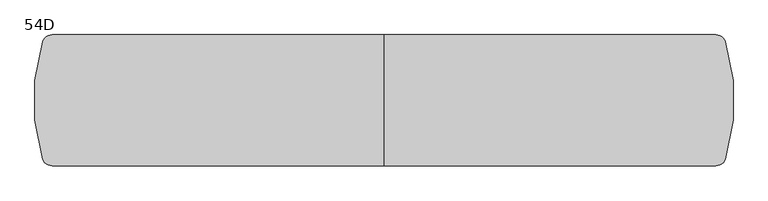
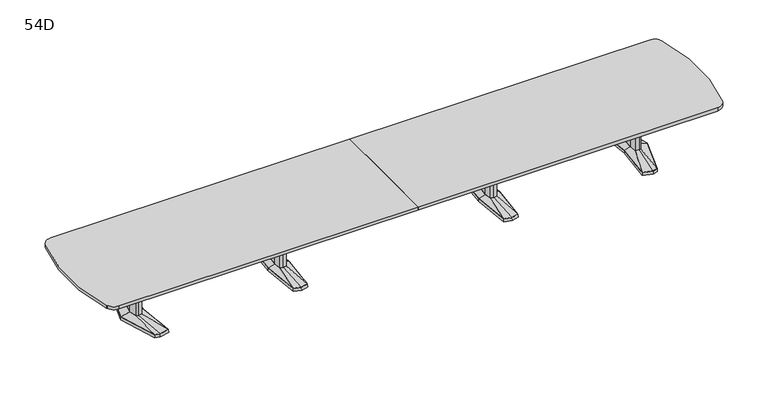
"""IFC4 building model written with IfcOpenShell, lengths in millimetres: furniture geometry, Coalesse_AM_Table_Conference_ETable2_SoftRadiused_24ft_AluminiumBase : 54D."""

import ifcopenshell
import ifcopenshell.guid

model = None  # the IFC model being written
_history = None  # IfcOwnerHistory: only IFC2X3 demands one
_inside = {}  # id of a spatial element -> (the spatial element, [elements in it])
_under = {}  # id of a project, library or spatial element -> (it, [spatial elements below it])
_declared = {}  # id of a project -> (the project, [libraries it declares])
_typed = {}  # id of a type object -> (the type object, [elements of that type])
_made_of = {}  # id of a material, layer set ... -> (it, [elements and type objects made of it])


def new_model(schema):
    """Start an empty IFC model of exactly this schema.

    Asked for "IFC4X3", IfcOpenShell would pick the latest addendum, in which some entities
    have other attributes; the version numbers below select the first issue.
    IFC2X3 requires an IfcOwnerHistory on every rooted entity: one is made here for all.
    """
    global model, _history
    if schema == "IFC4X3":
        model = ifcopenshell.file(schema_version=(4, 3, 0, 0))
    else:
        model = ifcopenshell.file(schema=schema)
    _inside.clear()
    _under.clear()
    _declared.clear()
    _typed.clear()
    _made_of.clear()
    _history = None
    if model.schema == "IFC2X3":
        org = make("IfcOrganization", Name="unknown")
        user = make(
            "IfcPersonAndOrganization",
            ThePerson=make("IfcPerson", FamilyName="unknown"),
            TheOrganization=org,
        )
        app = make(
            "IfcApplication",
            ApplicationDeveloper=org,
            Version="unknown",
            ApplicationFullName="unknown",
            ApplicationIdentifier="unknown",
        )
        _history = make(
            "IfcOwnerHistory",
            OwningUser=user,
            OwningApplication=app,
            ChangeAction="ADDED",
            CreationDate=0,
        )
    return model


def make(cls, **values):
    """One entity of the class cls with the attributes given. An attribute that is None is left unset."""
    return model.create_entity(
        cls, **{name: value for name, value in values.items() if value is not None}
    )


def rooted(cls, **values):
    """An entity with a GlobalId (a new one), such as an element, a storey or a relation."""
    return make(cls, GlobalId=ifcopenshell.guid.new(), OwnerHistory=_history, **values)


def si_unit(unit_type, name, prefix=None):
    """IfcSIUnit, for example si_unit("LENGTHUNIT", "METRE", prefix="MILLI")."""
    return make("IfcSIUnit", UnitType=unit_type, Prefix=prefix, Name=name)


def assignment(units):
    """IfcUnitAssignment: the units of a project."""
    return None if units is None else make("IfcUnitAssignment", Units=units)


def point(xyz):
    """IfcCartesianPoint."""
    return None if xyz is None else make("IfcCartesianPoint", Coordinates=xyz)


def direction(xyz):
    """IfcDirection."""
    return None if xyz is None else make("IfcDirection", DirectionRatios=xyz)


def frame(location, z_axis=None, x_axis=None):
    """IfcAxis2Placement3D, a coordinate frame: its origin and axes. An axis left out is left unset."""
    return make(
        "IfcAxis2Placement3D",
        Location=point(location),
        Axis=direction(z_axis),
        RefDirection=direction(x_axis),
    )


def frame_2d(location, x_axis=None):
    """IfcAxis2Placement2D, a coordinate frame in the plane: its origin and x axis."""
    return make(
        "IfcAxis2Placement2D", Location=point(location), RefDirection=direction(x_axis)
    )


def origin():
    """The frame at (0, 0, 0) with its axes left unset."""
    return frame((0.0, 0.0, 0.0))


def place(relative_to, where):
    """IfcLocalPlacement: puts the frame where relative to a parent placement (None: the world)."""
    return make(
        "IfcLocalPlacement", PlacementRelTo=relative_to, RelativePlacement=where
    )


def context(
    kind, dimensions, precision=None, world=None, true_north=None, identifier=None
):
    """IfcGeometricRepresentationContext, for example the 3D "Model" context."""
    return make(
        "IfcGeometricRepresentationContext",
        ContextIdentifier=identifier,
        ContextType=kind,
        CoordinateSpaceDimension=dimensions,
        Precision=precision,
        WorldCoordinateSystem=world,
        TrueNorth=true_north,
    )


def project(units=None, contexts=None):
    """IfcProject with its units and contexts."""
    return rooted(
        "IfcProject",
        Name="project",
        RepresentationContexts=contexts,
        UnitsInContext=assignment(units),
    )


def spatial(cls, under=None, at=None, **own):
    """A site, building, storey or space (cls), placed at a placement, below another one or the project."""
    s = rooted(cls, ObjectPlacement=at, **own)
    if under is not None:
        _under.setdefault(under.id(), (under, []))[1].append(s)
    return s


def polyline(points):
    """IfcPolyline through the points."""
    return make("IfcPolyline", Points=[point(p) for p in points])


def circle_curve(where, radius):
    """IfcCircle in the frame where."""
    return make("IfcCircle", Position=where, Radius=radius)


def trimmed(basis, trim1, trim2, sense, master):
    """IfcTrimmedCurve: the piece of a basis curve between two trims."""
    return make(
        "IfcTrimmedCurve",
        BasisCurve=basis,
        Trim1=trim1,
        Trim2=trim2,
        SenseAgreement=sense,
        MasterRepresentation=master,
    )


def segment(curve, same_sense, transition):
    """IfcCompositeCurveSegment."""
    return make(
        "IfcCompositeCurveSegment",
        Transition=transition,
        SameSense=same_sense,
        ParentCurve=curve,
    )


def composite_curve(segments, self_intersect=None):
    """IfcCompositeCurve: segments joined end to end."""
    return make("IfcCompositeCurve", Segments=segments, SelfIntersect=self_intersect)


def outline(outer, holes=None, kind="AREA"):
    """IfcArbitraryClosedProfileDef: a profile drawn as a closed curve; with holes, ...WithVoids."""
    if holes is None:
        return make("IfcArbitraryClosedProfileDef", ProfileType=kind, OuterCurve=outer)
    return make(
        "IfcArbitraryProfileDefWithVoids",
        ProfileType=kind,
        OuterCurve=outer,
        InnerCurves=holes,
    )


def extrude(swept, where, along, depth):
    """IfcExtrudedAreaSolid: the profile swept, set in the frame where, extruded along a direction by depth."""
    return make(
        "IfcExtrudedAreaSolid",
        SweptArea=swept,
        Position=where,
        ExtrudedDirection=direction(along),
        Depth=depth,
    )


def faces_of(points, faces, orient=None, outer=None):
    """IfcFace entities. A face is a list of loops; a loop is a list of indices into points, from 0.

    orient and outer hold one flag for each loop. By default every Orientation is true, the
    first loop of a face is its IfcFaceOuterBound and the others are IfcFaceBound.
    """
    made = []
    for i, loops in enumerate(faces):
        bounds = []
        for j, loop in enumerate(loops):
            is_outer = j == 0 if outer is None else outer[i][j]
            bounds.append(
                make(
                    "IfcFaceOuterBound" if is_outer else "IfcFaceBound",
                    Bound=make("IfcPolyLoop", Polygon=[points[k] for k in loop]),
                    Orientation=True if orient is None else orient[i][j],
                )
            )
        made.append(make("IfcFace", Bounds=bounds))
    return made


def faceted_brep(points, faces, orient=None, outer=None, voids=None):
    """IfcFacetedBrep: a solid bounded by flat faces; with voids (closed shells), ...WithVoids."""
    shared = [point(p) for p in points]
    hull = make("IfcClosedShell", CfsFaces=faces_of(shared, faces, orient, outer))
    if voids is None:
        return make("IfcFacetedBrep", Outer=hull)
    return make(
        "IfcFacetedBrepWithVoids",
        Outer=hull,
        Voids=[
            make(cls, CfsFaces=faces_of(shared, fs, o, b)) for cls, fs, o, b in voids
        ],
    )


def shape(context_of_items, identifier, shape_type, items):
    """IfcShapeRepresentation: the items that make up one representation, for example the "Body"."""
    return make(
        "IfcShapeRepresentation",
        ContextOfItems=context_of_items,
        RepresentationIdentifier=identifier,
        RepresentationType=shape_type,
        Items=items,
    )


def source(mapping_origin, context_of_items, identifier, shape_type, items):
    """IfcRepresentationMap: a shape defined once, which mapped items show again and again."""
    return make(
        "IfcRepresentationMap",
        MappingOrigin=mapping_origin,
        MappedRepresentation=shape(context_of_items, identifier, shape_type, items),
    )


def transform(
    local_origin,
    x_axis=None,
    y_axis=None,
    z_axis=None,
    scale=None,
    scale2=None,
    scale3=None,
    uniform=True,
):
    """IfcCartesianTransformationOperator3D, or its non-uniform kind. x_axis, y_axis, z_axis: its Axis1, 2, 3."""
    if uniform:
        return make(
            "IfcCartesianTransformationOperator3D",
            Axis1=direction(x_axis),
            Axis2=direction(y_axis),
            LocalOrigin=point(local_origin),
            Scale=scale,
            Axis3=direction(z_axis),
        )
    return make(
        "IfcCartesianTransformationOperator3DnonUniform",
        Axis1=direction(x_axis),
        Axis2=direction(y_axis),
        LocalOrigin=point(local_origin),
        Scale=scale,
        Axis3=direction(z_axis),
        Scale2=scale2,
        Scale3=scale3,
    )


def mapped(mapping_source, mapping_target):
    """IfcMappedItem: shows the shape of a source again, moved by a transform."""
    return make(
        "IfcMappedItem", MappingSource=mapping_source, MappingTarget=mapping_target
    )


def made_of(thing, what):
    """Note that an element or type object is made of a material, layer set ...; save() writes the relation."""
    if what is not None:
        _made_of.setdefault(what.id(), (what, []))[1].append(thing)
    return thing


def element(
    cls,
    number,
    at=None,
    inside=None,
    cuts=None,
    type_object=None,
    material=None,
    context=None,
    identifier="Body",
    shape_type=None,
    held_by="IfcProductDefinitionShape",
    body=None,
    shapes=None,
    **own,
):
    """One element of the class cls, such as IfcWall. Its Tag is "e" and its number.

    at: its placement. inside: the storey or other place that contains it. cuts: it is an
    opening in that element (IfcRelVoidsElement). A single representation is given by context,
    identifier, shape_type and body (its items); several are given by shapes. held_by: the class
    of the entity that holds the representations. save() writes the other relations.
    """
    e = rooted(cls, Tag="e%d" % number, ObjectPlacement=at, **own)
    if body is not None:
        shapes = [shape(context, identifier, shape_type, body)]
    if shapes is not None:
        e.Representation = make(held_by, Representations=shapes)
    if inside is not None:
        _inside.setdefault(inside.id(), (inside, []))[1].append(e)
    if cuts is not None:
        rooted(
            "IfcRelVoidsElement", RelatingBuildingElement=cuts, RelatedOpeningElement=e
        )
    if type_object is not None:
        _typed.setdefault(type_object.id(), (type_object, []))[1].append(e)
    return made_of(e, material)


def aggregate(whole, parts):
    """IfcRelAggregates: a whole, such as a stair, and the parts it consists of."""
    return rooted("IfcRelAggregates", RelatingObject=whole, RelatedObjects=parts)


def save(model, path):
    """Write the relations noted so far, then the file.

    IfcRelAggregates (storeys below a building ...), IfcRelContainedInSpatialStructure (elements
    in a storey), IfcRelDefinesByType, IfcRelAssociatesMaterial and IfcRelDeclares: one each for
    every whole, place, type object, material and project.
    """
    for whole, parts in _under.values():
        aggregate(whole, parts)
    for where, things in _inside.values():
        rooted(
            "IfcRelContainedInSpatialStructure",
            RelatedElements=things,
            RelatingStructure=where,
        )
    for kind, things in _typed.values():
        rooted("IfcRelDefinesByType", RelatedObjects=things, RelatingType=kind)
    for what, things in _made_of.values():
        rooted("IfcRelAssociatesMaterial", RelatedObjects=things, RelatingMaterial=what)
    for by, libraries in _declared.values():
        rooted("IfcRelDeclares", RelatingContext=by, RelatedDefinitions=libraries)
    model.write(path)


def plane_surface(at):
    """IfcPlane: the flat surface through the origin of the frame at, square to its z axis."""
    return make("IfcPlane", Position=at)


def spline_surface(u_degree, v_degree, points, u_multiplicities, v_multiplicities, u_knots, v_knots, weights=None):
    """IfcBSplineSurfaceWithKnots; with weights, IfcRationalBSplineSurfaceWithKnots. points: one row for each step in u."""
    own = dict(
        UDegree=u_degree,
        VDegree=v_degree,
        ControlPointsList=[[point(p) for p in row] for row in points],
        SurfaceForm="UNSPECIFIED",
        UClosed=False,
        VClosed=False,
        SelfIntersect=False,
        UMultiplicities=u_multiplicities,
        VMultiplicities=v_multiplicities,
        UKnots=u_knots,
        VKnots=v_knots,
        KnotSpec="UNSPECIFIED",
    )
    if weights is None:
        return make("IfcBSplineSurfaceWithKnots", **own)
    return make("IfcRationalBSplineSurfaceWithKnots", WeightsData=weights, **own)


def advanced_brep(points, edges, surfaces, faces):
    """IfcAdvancedBrep: a solid bounded by faces that lie on surfaces and meet in shared edges.

    An edge is (start, end): straight between two places in points (the first is 0);
    or (start, end, curve); or (start, end, curve, False) where it runs against its curve.
    A face is (place in surfaces, loops), or (place, loops, False) where it looks against
    its surface's normal. A loop lists edges by number (the first is 1), with a minus sign
    where the edge is run from its end to its start. The first loop is the outer one.
    """
    corners = [point(p) for p in points]
    vertices = [make("IfcVertexPoint", VertexGeometry=c) for c in corners]
    made = []
    for start, end, *more in edges:
        made.append(
            make(
                "IfcEdgeCurve",
                EdgeStart=vertices[start],
                EdgeEnd=vertices[end],
                EdgeGeometry=more[0] if more else make("IfcPolyline", Points=[corners[start], corners[end]]),
                SameSense=more[1] if len(more) > 1 else True,
            )
        )
    hull = []
    for where, loops, *sense in faces:
        bounds = []
        for j, loop in enumerate(loops):
            ring = [make("IfcOrientedEdge", EdgeElement=made[abs(k) - 1], Orientation=k > 0) for k in loop]
            bounds.append(
                make(
                    "IfcFaceOuterBound" if j == 0 else "IfcFaceBound",
                    Bound=make("IfcEdgeLoop", EdgeList=ring),
                    Orientation=True,
                )
            )
        hull.append(make("IfcAdvancedFace", Bounds=bounds, FaceSurface=surfaces[where], SameSense=sense[0] if sense else True))
    return make("IfcAdvancedBrep", Outer=make("IfcClosedShell", CfsFaces=hull))


def furniture_54d_6ded3c11(model_context):
    return source(origin(), model_context, "Body", "SolidModel", [
        faceted_brep([(2852.8994335, 455.5848221, 38.1), (2743.3218777, 426.2263816, 38.1), (2784.4851217, 0.0, 38.1), (2743.3218777, -426.2263816, 38.1), (2852.8994335, -455.5848221, 38.1), (2909.0257896, -440.5478297, 38.1), (3046.3371769, 0.0, 38.1), (2909.0257896, 440.5478297, 38.1), (2852.8994254, 457.2283104, 3.175), (2910.2811972, 441.8549756, 3.175), (3048.0, 0.0, 3.175), (2910.2811972, -441.8549756, 3.175), (2852.8994254, -457.2283104, 3.175), (2741.6125, -427.4118891, 3.175), (2782.8902356, 0.0, 3.175), (2741.6125, 427.4118891, 3.175), (2856.488865, 428.3273875, 3.175), (2751.4405728, 402.1057253, 3.175), (2759.559268, 377.985069, 3.175), (2860.0782966, 401.0699529, 3.175), (2910.6379225, 387.524361, 3.175), (2909.8318561, 414.0360954, 3.175), (2856.488865, -428.3273875, 3.175), (2909.8318561, -414.0360954, 3.175), (2910.6379225, -387.524361, 3.175), (2860.0782966, -401.0699529, 3.175), (2759.559268, -377.985069, 3.175), (2751.4405728, -402.1057253, 3.175), (2983.0841121, 0.0, 3.175), (2950.8147111, 120.4193755, 3.175), (2902.1674722, 133.471665, 3.175), (2822.2868026, 119.4176561, 3.175), (2811.1555966, 0.0, 3.175), (2822.2868026, -119.4176561, 3.175), (2902.1674722, -133.471665, 3.175), (2950.8147111, -120.4193755, 3.175), (2856.488865, 428.3273875, 0.0), (2909.8318561, 414.0360954, 0.0), (2910.6379225, 387.524361, 0.0), (2860.0782966, 401.0699529, 0.0), (2759.559268, 377.985069, 0.0), (2751.4405728, 402.1057253, 0.0), (2856.488865, -428.3273875, 0.0), (2751.4405728, -402.1057253, 0.0), (2759.559268, -377.985069, 0.0), (2860.0782966, -401.0699529, 0.0), (2910.6379225, -387.524361, 0.0), (2909.8318561, -414.0360954, 0.0), (2983.0841121, 0.0, 0.0), (2950.8147111, -120.4193755, 0.0), (2902.1674722, -133.471665, 0.0), (2822.2868026, -119.4176561, 0.0), (2811.1555966, 0.0, 0.0), (2822.2868026, 119.4176561, 0.0), (2902.1674722, 133.471665, 0.0), (2950.8147111, 120.4193755, 0.0)], [[[0, 1, 2, 3, 4, 5, 6, 7]], [[8, 9, 10, 11, 12, 13, 14, 15], [16, 17, 18, 19, 20, 21], [22, 23, 24, 25, 26, 27], [28, 29, 30, 31, 32, 33, 34, 35]], [[7, 9, 8, 0]], [[6, 10, 9, 7]], [[5, 11, 10, 6]], [[4, 12, 11, 5]], [[3, 13, 12, 4]], [[2, 14, 13, 3]], [[1, 15, 14, 2]], [[0, 8, 15, 1]], [[36, 37, 38, 39, 40, 41]], [[42, 43, 44, 45, 46, 47]], [[48, 49, 50, 51, 52, 53, 54, 55]], [[36, 16, 21, 37]], [[37, 21, 20, 38]], [[38, 20, 19, 39]], [[39, 19, 18, 40]], [[40, 18, 17, 41]], [[41, 17, 16, 36]], [[42, 22, 27, 43]], [[43, 27, 26, 44]], [[44, 26, 25, 45]], [[45, 25, 24, 46]], [[46, 24, 23, 47]], [[47, 23, 22, 42]], [[48, 28, 35, 49]], [[49, 35, 34, 50]], [[50, 34, 33, 51]], [[51, 33, 32, 52]], [[52, 32, 31, 53]], [[53, 31, 30, 54]], [[54, 30, 29, 55]], [[55, 29, 28, 48]]]),
        faceted_brep([(2943.6398336, 0.0, 698.5), (2919.7046046, 89.3188359, 698.5), (2902.8512484, 93.8406728, 698.5), (2900.4514011, 94.4845635, 698.5), (2857.523896, 86.9320037, 698.5), (2849.4207556, 0.0, 698.5), (2857.523896, -86.9320037, 698.5), (2900.4514011, -94.4845635, 698.5), (2902.8512484, -93.8406728, 698.5), (2919.7046046, -89.3188359, 698.5), (2943.6398336, 0.0, 63.5), (2919.7046046, -89.3188359, 63.5), (2902.8512484, -93.8406728, 63.5), (2900.4514011, -94.4845635, 63.5), (2857.523896, -86.9320037, 63.5), (2849.4207556, 0.0, 63.5), (2857.523896, 86.9320037, 63.5), (2900.4514011, 94.4845635, 63.5), (2902.8512484, 93.8406728, 63.5), (2919.7046046, 89.3188359, 63.5)], [[[0, 1, 2, 3, 4, 5, 6, 7, 8, 9]], [[10, 11, 12, 13, 14, 15, 16, 17, 18, 19]], [[9, 11, 10, 0]], [[8, 12, 11, 9]], [[7, 13, 12, 8]], [[6, 14, 13, 7]], [[5, 15, 14, 6]], [[4, 16, 15, 5]], [[3, 17, 16, 4]], [[2, 18, 17, 3]], [[1, 19, 18, 2]], [[0, 10, 19, 1]]]),
        advanced_brep(
        [(2900.4514011, 94.4845635, 63.5), (2857.523896, 86.9320037, 63.5), (2849.4207556, 0.0, 63.5), (2857.523896, -86.9320037, 63.5), (2900.4514011, -94.4845635, 63.5), (2919.7046046, -89.3188359, 63.5), (2943.6398336, 0.0, 63.5), (2919.7046046, 89.3188359, 63.5), (2852.8994335, 455.5848221, 38.1), (2909.0257896, 440.5478297, 38.1), (3046.3371769, 0.0, 38.1), (2909.0257896, -440.5478297, 38.1), (2852.8994335, -455.5848221, 38.1), (2743.3218777, -426.2263816, 38.1), (2784.4851217, 0.0, 38.1), (2743.3218777, 426.2263816, 38.1)],
        [
            (0, 1),
            (1, 2),
            (2, 3),
            (3, 4),
            (4, 5),
            (5, 6),
            (6, 7),
            (7, 0),
            (8, 9),
            (9, 10),
            (10, 11),
            (11, 12),
            (12, 13),
            (13, 14),
            (14, 15),
            (15, 8),
            (8, 0),
            (7, 9),
            (6, 10),
            (5, 11),
            (4, 12),
            (3, 13),
            (2, 14),
            (1, 15),
        ],
        [
            plane_surface(frame((2893.5525491, 0.0, 63.5), z_axis=(0.0, 0.0, 1.0), x_axis=(-0.25884244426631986, -0.9659195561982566, 0.0))),
            plane_surface(frame((2855.1645625, 0.0, 38.1), z_axis=(0.0, 0.0, -1.0), x_axis=(-0.25884244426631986, -0.9659195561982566, 0.0))),
            spline_surface(1, 1, [[(2852.8994335, 455.5848221, 38.1), (2909.0257896, 440.5478297, 38.1)], [(2900.4514011, 94.4845635, 63.5), (2919.7046046, 89.3188359, 63.5)]], [2, 2], [2, 2], [0.0, 1.0], [0.0, 1.0]),
            spline_surface(1, 1, [[(2909.0257896, 440.5478297, 38.1), (3046.3371769, 0.0, 38.1)], [(2919.7046046, 89.3188359, 63.5), (2943.6398336, 0.0, 63.5)]], [2, 2], [2, 2], [0.0, 1.0], [0.0, 1.0]),
            spline_surface(1, 1, [[(3046.3371769, 0.0, 38.1), (2909.0257896, -440.5478297, 38.1)], [(2943.6398336, 0.0, 63.5), (2919.7046046, -89.3188359, 63.5)]], [2, 2], [2, 2], [0.0, 1.0], [0.0, 1.0]),
            spline_surface(1, 1, [[(2909.0257896, -440.5478297, 38.1), (2852.8994335, -455.5848221, 38.1)], [(2919.7046046, -89.3188359, 63.5), (2900.4514011, -94.4845635, 63.5)]], [2, 2], [2, 2], [0.0, 1.0], [0.0, 1.0]),
            spline_surface(1, 1, [[(2852.8994335, -455.5848221, 38.1), (2743.3218777, -426.2263816, 38.1)], [(2900.4514011, -94.4845635, 63.5), (2857.523896, -86.9320037, 63.5)]], [2, 2], [2, 2], [0.0, 1.0], [0.0, 1.0]),
            spline_surface(1, 1, [[(2743.3218777, -426.2263816, 38.1), (2784.4851217, 0.0, 38.1)], [(2857.523896, -86.9320037, 63.5), (2849.4207556, 0.0, 63.5)]], [2, 2], [2, 2], [0.0, 1.0], [0.0, 1.0]),
            spline_surface(1, 1, [[(2784.4851217, 0.0, 38.1), (2743.3218777, 426.2263816, 38.1)], [(2849.4207556, 0.0, 63.5), (2857.523896, 86.9320037, 63.5)]], [2, 2], [2, 2], [0.0, 1.0], [0.0, 1.0]),
            spline_surface(1, 1, [[(2743.3218777, 426.2263816, 38.1), (2852.8994335, 455.5848221, 38.1)], [(2857.523896, 86.9320037, 63.5), (2900.4514011, 94.4845635, 63.5)]], [2, 2], [2, 2], [0.0, 1.0], [0.0, 1.0]),
        ],
        [
            (0, [[1, 2, 3, 4, 5, 6, 7, 8]]),
            (1, [[9, 10, 11, 12, 13, 14, 15, 16]]),
            (2, [[17, -8, 18, -9]]),
            (3, [[-18, -7, 19, -10]]),
            (4, [[-19, -6, 20, -11]]),
            (5, [[-20, -5, 21, -12]]),
            (6, [[-21, -4, 22, -13]]),
            (7, [[-22, -3, 23, -14]]),
            (8, [[-23, -2, 24, -15]]),
            (9, [[-24, -1, -17, -16]]),
        ],
    ),
        faceted_brep([(-2852.8994335, 455.5848221, 38.1), (-2909.0257896, 440.5478297, 38.1), (-3046.3371769, 0.0, 38.1), (-2909.0257896, -440.5478297, 38.1), (-2852.8994335, -455.5848221, 38.1), (-2743.3218777, -426.2263816, 38.1), (-2784.4851217, 0.0, 38.1), (-2743.3218777, 426.2263816, 38.1), (-2852.8994254, 457.2283104, 3.175), (-2741.6125, 427.4118891, 3.175), (-2782.8902356, 0.0, 3.175), (-2741.6125, -427.4118891, 3.175), (-2852.8994254, -457.2283104, 3.175), (-2910.2811972, -441.8549756, 3.175), (-3048.0, 0.0, 3.175), (-2910.2811972, 441.8549756, 3.175), (-2856.488865, 428.3273875, 3.175), (-2909.8318561, 414.0360954, 3.175), (-2910.6379225, 387.524361, 3.175), (-2860.0782966, 401.0699529, 3.175), (-2759.559268, 377.985069, 3.175), (-2751.4405728, 402.1057253, 3.175), (-2856.488865, -428.3273875, 3.175), (-2751.4405728, -402.1057253, 3.175), (-2759.559268, -377.985069, 3.175), (-2860.0782966, -401.0699529, 3.175), (-2910.6379225, -387.524361, 3.175), (-2909.8318561, -414.0360954, 3.175), (-2983.0841121, 0.0, 3.175), (-2950.8147111, -120.4193755, 3.175), (-2902.1674722, -133.471665, 3.175), (-2822.2868026, -119.4176561, 3.175), (-2811.1555966, 0.0, 3.175), (-2822.2868026, 119.4176561, 3.175), (-2902.1674722, 133.471665, 3.175), (-2950.8147111, 120.4193755, 3.175), (-2856.488865, 428.3273875, 0.0), (-2751.4405728, 402.1057253, 0.0), (-2759.559268, 377.985069, 0.0), (-2860.0782966, 401.0699529, 0.0), (-2910.6379225, 387.524361, 0.0), (-2909.8318561, 414.0360954, 0.0), (-2856.488865, -428.3273875, 0.0), (-2909.8318561, -414.0360954, 0.0), (-2910.6379225, -387.524361, 0.0), (-2860.0782966, -401.0699529, 0.0), (-2759.559268, -377.985069, 0.0), (-2751.4405728, -402.1057253, 0.0), (-2983.0841121, 0.0, 0.0), (-2950.8147111, 120.4193755, 0.0), (-2902.1674722, 133.471665, 0.0), (-2822.2868026, 119.4176561, 0.0), (-2811.1555966, 0.0, 0.0), (-2822.2868026, -119.4176561, 0.0), (-2902.1674722, -133.471665, 0.0), (-2950.8147111, -120.4193755, 0.0)], [[[0, 1, 2, 3, 4, 5, 6, 7]], [[8, 9, 10, 11, 12, 13, 14, 15], [16, 17, 18, 19, 20, 21], [22, 23, 24, 25, 26, 27], [28, 29, 30, 31, 32, 33, 34, 35]], [[1, 0, 8, 15]], [[2, 1, 15, 14]], [[3, 2, 14, 13]], [[4, 3, 13, 12]], [[5, 4, 12, 11]], [[6, 5, 11, 10]], [[7, 6, 10, 9]], [[0, 7, 9, 8]], [[36, 37, 38, 39, 40, 41]], [[42, 43, 44, 45, 46, 47]], [[48, 49, 50, 51, 52, 53, 54, 55]], [[36, 41, 17, 16]], [[41, 40, 18, 17]], [[40, 39, 19, 18]], [[39, 38, 20, 19]], [[38, 37, 21, 20]], [[37, 36, 16, 21]], [[42, 47, 23, 22]], [[47, 46, 24, 23]], [[46, 45, 25, 24]], [[45, 44, 26, 25]], [[44, 43, 27, 26]], [[43, 42, 22, 27]], [[48, 55, 29, 28]], [[55, 54, 30, 29]], [[54, 53, 31, 30]], [[53, 52, 32, 31]], [[52, 51, 33, 32]], [[51, 50, 34, 33]], [[50, 49, 35, 34]], [[49, 48, 28, 35]]]),
        faceted_brep([(-2943.6398336, 0.0, 698.5), (-2919.7046046, -89.3188359, 698.5), (-2902.8512484, -93.8406728, 698.5), (-2900.4514011, -94.4845635, 698.5), (-2857.523896, -86.9320037, 698.5), (-2849.4207556, 0.0, 698.5), (-2857.523896, 86.9320037, 698.5), (-2900.4514011, 94.4845635, 698.5), (-2902.8512484, 93.8406728, 698.5), (-2919.7046046, 89.3188359, 698.5), (-2943.6398336, 0.0, 63.5), (-2919.7046046, 89.3188359, 63.5), (-2902.8512484, 93.8406728, 63.5), (-2900.4514011, 94.4845635, 63.5), (-2857.523896, 86.9320037, 63.5), (-2849.4207556, 0.0, 63.5), (-2857.523896, -86.9320037, 63.5), (-2900.4514011, -94.4845635, 63.5), (-2902.8512484, -93.8406728, 63.5), (-2919.7046046, -89.3188359, 63.5)], [[[0, 1, 2, 3, 4, 5, 6, 7, 8, 9]], [[10, 11, 12, 13, 14, 15, 16, 17, 18, 19]], [[1, 0, 10, 19]], [[2, 1, 19, 18]], [[3, 2, 18, 17]], [[4, 3, 17, 16]], [[5, 4, 16, 15]], [[6, 5, 15, 14]], [[7, 6, 14, 13]], [[8, 7, 13, 12]], [[9, 8, 12, 11]], [[0, 9, 11, 10]]]),
        advanced_brep(
        [(-2900.4514011, 94.4845635, 63.5), (-2919.7046046, 89.3188359, 63.5), (-2943.6398336, 0.0, 63.5), (-2919.7046046, -89.3188359, 63.5), (-2900.4514011, -94.4845635, 63.5), (-2857.523896, -86.9320037, 63.5), (-2849.4207556, 0.0, 63.5), (-2857.523896, 86.9320037, 63.5), (-2852.8994335, 455.5848221, 38.1), (-2743.3218777, 426.2263816, 38.1), (-2784.4851217, 0.0, 38.1), (-2743.3218777, -426.2263816, 38.1), (-2852.8994335, -455.5848221, 38.1), (-2909.0257896, -440.5478297, 38.1), (-3046.3371769, 0.0, 38.1), (-2909.0257896, 440.5478297, 38.1)],
        [
            (0, 1),
            (1, 2),
            (2, 3),
            (3, 4),
            (4, 5),
            (5, 6),
            (6, 7),
            (7, 0),
            (8, 9),
            (9, 10),
            (10, 11),
            (11, 12),
            (12, 13),
            (13, 14),
            (14, 15),
            (15, 8),
            (15, 1),
            (0, 8),
            (14, 2),
            (13, 3),
            (12, 4),
            (11, 5),
            (10, 6),
            (9, 7),
        ],
        [
            plane_surface(frame((-2893.5525491, 0.0, 63.5), z_axis=(0.0, 0.0, 1.0), x_axis=(0.25884244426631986, -0.9659195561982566, 0.0))),
            plane_surface(frame((-2855.1645625, 0.0, 38.1), z_axis=(0.0, 0.0, -1.0), x_axis=(0.25884244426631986, -0.9659195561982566, 0.0))),
            spline_surface(1, 1, [[(-2852.8994335, 455.5848221, 38.1), (-2900.4514011, 94.4845635, 63.5)], [(-2909.0257896, 440.5478297, 38.1), (-2919.7046046, 89.3188359, 63.5)]], [2, 2], [2, 2], [0.0, 1.0], [0.0, 1.0]),
            spline_surface(1, 1, [[(-2909.0257896, 440.5478297, 38.1), (-2919.7046046, 89.3188359, 63.5)], [(-3046.3371769, 0.0, 38.1), (-2943.6398336, 0.0, 63.5)]], [2, 2], [2, 2], [0.0, 1.0], [0.0, 1.0]),
            spline_surface(1, 1, [[(-3046.3371769, 0.0, 38.1), (-2943.6398336, 0.0, 63.5)], [(-2909.0257896, -440.5478297, 38.1), (-2919.7046046, -89.3188359, 63.5)]], [2, 2], [2, 2], [0.0, 1.0], [0.0, 1.0]),
            spline_surface(1, 1, [[(-2909.0257896, -440.5478297, 38.1), (-2919.7046046, -89.3188359, 63.5)], [(-2852.8994335, -455.5848221, 38.1), (-2900.4514011, -94.4845635, 63.5)]], [2, 2], [2, 2], [0.0, 1.0], [0.0, 1.0]),
            spline_surface(1, 1, [[(-2852.8994335, -455.5848221, 38.1), (-2900.4514011, -94.4845635, 63.5)], [(-2743.3218777, -426.2263816, 38.1), (-2857.523896, -86.9320037, 63.5)]], [2, 2], [2, 2], [0.0, 1.0], [0.0, 1.0]),
            spline_surface(1, 1, [[(-2743.3218777, -426.2263816, 38.1), (-2857.523896, -86.9320037, 63.5)], [(-2784.4851217, 0.0, 38.1), (-2849.4207556, 0.0, 63.5)]], [2, 2], [2, 2], [0.0, 1.0], [0.0, 1.0]),
            spline_surface(1, 1, [[(-2784.4851217, 0.0, 38.1), (-2849.4207556, 0.0, 63.5)], [(-2743.3218777, 426.2263816, 38.1), (-2857.523896, 86.9320037, 63.5)]], [2, 2], [2, 2], [0.0, 1.0], [0.0, 1.0]),
            spline_surface(1, 1, [[(-2743.3218777, 426.2263816, 38.1), (-2857.523896, 86.9320037, 63.5)], [(-2852.8994335, 455.5848221, 38.1), (-2900.4514011, 94.4845635, 63.5)]], [2, 2], [2, 2], [0.0, 1.0], [0.0, 1.0]),
        ],
        [
            (0, [[1, 2, 3, 4, 5, 6, 7, 8]]),
            (1, [[9, 10, 11, 12, 13, 14, 15, 16]]),
            (2, [[-16, 17, -1, 18]]),
            (3, [[-15, 19, -2, -17]]),
            (4, [[-14, 20, -3, -19]]),
            (5, [[-13, 21, -4, -20]]),
            (6, [[-12, 22, -5, -21]]),
            (7, [[-11, 23, -6, -22]]),
            (8, [[-10, 24, -7, -23]]),
            (9, [[-9, -18, -8, -24]]),
        ],
    ),
        faceted_brep([(1137.9666209, -433.8053819, 38.1), (1219.2, -455.556576, 38.1), (1300.4333791, -433.8053819, 38.1), (1338.2564774, 0.0, 38.1), (1300.4333791, 433.8053819, 38.1), (1219.2, 455.556576, 38.1), (1137.9666209, 433.8053819, 38.1), (1100.1435226, 0.0, 38.1), (1136.4817205, -435.0512063, 3.175), (1098.55, 0.0, 3.175), (1136.4817205, 435.0512063, 3.175), (1219.2, 457.2, 3.175), (1301.9182795, 435.0512063, 3.175), (1339.85, 0.0, 3.175), (1301.9182795, -435.0512063, 3.175), (1219.2, -457.2, 3.175), (1219.2, 429.2617927, 3.175), (1141.2323194, 408.3850278, 3.175), (1144.4980179, 382.9646737, 3.175), (1219.2, 402.9670094, 3.175), (1293.9019821, 382.9646737, 3.175), (1297.1676806, 408.3850278, 3.175), (1219.2, -429.2617927, 3.175), (1297.1676806, -408.3850278, 3.175), (1293.9019821, -382.9646737, 3.175), (1219.2, -402.9670094, 3.175), (1144.4980179, -382.9646737, 3.175), (1141.2323194, -408.3850278, 3.175), (1147.3425738, 114.6326257, 3.175), (1136.6573924, 0.0, 3.175), (1147.3425738, -114.6326257, 3.175), (1219.2, -133.8761372, 3.175), (1291.0574262, -114.6326257, 3.175), (1301.7426076, 0.0, 3.175), (1291.0574262, 114.6326257, 3.175), (1219.2, 133.8761372, 3.175), (1219.2, 429.2617927, 0.0), (1297.1676806, 408.3850278, 0.0), (1293.9019821, 382.9646737, 0.0), (1219.2, 402.9670094, 0.0), (1144.4980179, 382.9646737, 0.0), (1141.2323194, 408.3850278, 0.0), (1219.2, -429.2617927, 0.0), (1141.2323194, -408.3850278, 0.0), (1144.4980179, -382.9646737, 0.0), (1219.2, -402.9670094, 0.0), (1293.9019821, -382.9646737, 0.0), (1297.1676806, -408.3850278, 0.0), (1147.3425738, 114.6326257, 0.0), (1219.2, 133.8761372, 0.0), (1291.0574262, 114.6326257, 0.0), (1301.7426076, 0.0, 0.0), (1291.0574262, -114.6326257, 0.0), (1219.2, -133.8761372, 0.0), (1147.3425738, -114.6326257, 0.0), (1136.6573924, 0.0, 0.0)], [[[0, 1, 2, 3, 4, 5, 6, 7]], [[8, 9, 10, 11, 12, 13, 14, 15], [16, 17, 18, 19, 20, 21], [22, 23, 24, 25, 26, 27], [28, 29, 30, 31, 32, 33, 34, 35]], [[1, 0, 8, 15]], [[2, 1, 15, 14]], [[3, 2, 14, 13]], [[4, 3, 13, 12]], [[5, 4, 12, 11]], [[6, 5, 11, 10]], [[7, 6, 10, 9]], [[0, 7, 9, 8]], [[36, 37, 38, 39, 40, 41]], [[42, 43, 44, 45, 46, 47]], [[48, 49, 50, 51, 52, 53, 54, 55]], [[36, 41, 17, 16]], [[41, 40, 18, 17]], [[40, 39, 19, 18]], [[39, 38, 20, 19]], [[38, 37, 21, 20]], [[37, 36, 16, 21]], [[42, 47, 23, 22]], [[47, 46, 24, 23]], [[46, 45, 25, 24]], [[45, 44, 26, 25]], [[44, 43, 27, 26]], [[43, 42, 22, 27]], [[48, 55, 29, 28]], [[55, 54, 30, 29]], [[54, 53, 31, 30]], [[53, 52, 32, 31]], [[52, 51, 33, 32]], [[51, 50, 34, 33]], [[50, 49, 35, 34]], [[49, 48, 28, 35]]]),
        faceted_brep([(1182.8167166, 84.6900825, 698.5), (1174.9225513, 0.0, 698.5), (1182.8167166, -84.6900825, 698.5), (1219.2, -94.4335728, 698.5), (1255.5832834, -84.6900825, 698.5), (1263.4774487, 0.0, 698.5), (1255.5832834, 84.6900825, 698.5), (1219.2, 94.4335728, 698.5), (1182.8167166, 84.6900825, 63.5), (1219.2, 94.4335728, 63.5), (1255.5832834, 84.6900825, 63.5), (1263.4774487, 0.0, 63.5), (1255.5832834, -84.6900825, 63.5), (1219.2, -94.4335728, 63.5), (1182.8167166, -84.6900825, 63.5), (1174.9225513, 0.0, 63.5)], [[[0, 1, 2, 3, 4, 5, 6, 7]], [[8, 9, 10, 11, 12, 13, 14, 15]], [[1, 0, 8, 15]], [[2, 1, 15, 14]], [[3, 2, 14, 13]], [[4, 3, 13, 12]], [[5, 4, 12, 11]], [[6, 5, 11, 10]], [[7, 6, 10, 9]], [[0, 7, 9, 8]]]),
        advanced_brep(
        [(1182.8167166, 84.6900825, 63.5), (1174.9225513, 0.0, 63.5), (1182.8167166, -84.6900825, 63.5), (1219.2, -94.4335728, 63.5), (1255.5832834, -84.6900825, 63.5), (1263.4774487, 0.0, 63.5), (1255.5832834, 84.6900825, 63.5), (1219.2, 94.4335728, 63.5), (1137.9666209, 433.8053819, 38.1), (1219.2, 455.556576, 38.1), (1300.4333791, 433.8053819, 38.1), (1338.2564774, 0.0, 38.1), (1300.4333791, -433.8053819, 38.1), (1219.2, -455.556576, 38.1), (1137.9666209, -433.8053819, 38.1), (1100.1435226, 0.0, 38.1)],
        [
            (0, 1),
            (1, 2),
            (2, 3),
            (3, 4),
            (4, 5),
            (5, 6),
            (6, 7),
            (7, 0),
            (8, 9),
            (9, 10),
            (10, 11),
            (11, 12),
            (12, 13),
            (13, 14),
            (14, 15),
            (15, 8),
            (15, 1),
            (0, 8),
            (14, 2),
            (13, 3),
            (12, 4),
            (11, 5),
            (10, 6),
            (9, 7),
        ],
        [
            plane_surface(frame((1219.2, 0.0, 63.5), z_axis=(0.0, 0.0, 1.0000000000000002), x_axis=(-0.9659615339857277, -0.25868574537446, 0.0))),
            plane_surface(frame((1219.2, 0.0, 38.1), z_axis=(0.0, 0.0, -1.0000000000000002), x_axis=(-0.9659615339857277, -0.25868574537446, 0.0))),
            spline_surface(1, 1, [[(1137.9666209, 433.8053819, 38.1), (1182.8167166, 84.6900825, 63.5)], [(1100.1435226, 0.0, 38.1), (1174.9225513, 0.0, 63.5)]], [2, 2], [2, 2], [0.0, 1.0], [0.0, 1.0]),
            spline_surface(1, 1, [[(1100.1435226, 0.0, 38.1), (1174.9225513, 0.0, 63.5)], [(1137.9666209, -433.8053819, 38.1), (1182.8167166, -84.6900825, 63.5)]], [2, 2], [2, 2], [0.0, 1.0], [0.0, 1.0]),
            spline_surface(1, 1, [[(1137.9666209, -433.8053819, 38.1), (1182.8167166, -84.6900825, 63.5)], [(1219.2, -455.556576, 38.1), (1219.2, -94.4335728, 63.5)]], [2, 2], [2, 2], [0.0, 1.0], [0.0, 1.0]),
            spline_surface(1, 1, [[(1219.2, -455.556576, 38.1), (1219.2, -94.4335728, 63.5)], [(1300.4333791, -433.8053819, 38.1), (1255.5832834, -84.6900825, 63.5)]], [2, 2], [2, 2], [0.0, 1.0], [0.0, 1.0]),
            spline_surface(1, 1, [[(1300.4333791, -433.8053819, 38.1), (1255.5832834, -84.6900825, 63.5)], [(1338.2564774, 0.0, 38.1), (1263.4774487, 0.0, 63.5)]], [2, 2], [2, 2], [0.0, 1.0], [0.0, 1.0]),
            spline_surface(1, 1, [[(1338.2564774, 0.0, 38.1), (1263.4774487, 0.0, 63.5)], [(1300.4333791, 433.8053819, 38.1), (1255.5832834, 84.6900825, 63.5)]], [2, 2], [2, 2], [0.0, 1.0], [0.0, 1.0]),
            spline_surface(1, 1, [[(1300.4333791, 433.8053819, 38.1), (1255.5832834, 84.6900825, 63.5)], [(1219.2, 455.556576, 38.1), (1219.2, 94.4335728, 63.5)]], [2, 2], [2, 2], [0.0, 1.0], [0.0, 1.0]),
            spline_surface(1, 1, [[(1219.2, 455.556576, 38.1), (1219.2, 94.4335728, 63.5)], [(1137.9666209, 433.8053819, 38.1), (1182.8167166, 84.6900825, 63.5)]], [2, 2], [2, 2], [0.0, 1.0], [0.0, 1.0]),
        ],
        [
            (0, [[1, 2, 3, 4, 5, 6, 7, 8]]),
            (1, [[9, 10, 11, 12, 13, 14, 15, 16]]),
            (2, [[-16, 17, -1, 18]]),
            (3, [[-15, 19, -2, -17]]),
            (4, [[-14, 20, -3, -19]]),
            (5, [[-13, 21, -4, -20]]),
            (6, [[-12, 22, -5, -21]]),
            (7, [[-11, 23, -6, -22]]),
            (8, [[-10, 24, -7, -23]]),
            (9, [[-9, -18, -8, -24]]),
        ],
    ),
        faceted_brep([(-1300.4333791, -433.8053819, 38.1), (-1219.2, -455.556576, 38.1), (-1137.9666209, -433.8053819, 38.1), (-1100.1435226, 0.0, 38.1), (-1137.9666209, 433.8053819, 38.1), (-1219.2, 455.556576, 38.1), (-1300.4333791, 433.8053819, 38.1), (-1338.2564774, 0.0, 38.1), (-1301.9182795, -435.0512063, 3.175), (-1339.85, 0.0, 3.175), (-1301.9182795, 435.0512063, 3.175), (-1219.2, 457.2, 3.175), (-1136.4817205, 435.0512063, 3.175), (-1098.55, 0.0, 3.175), (-1136.4817205, -435.0512063, 3.175), (-1219.2, -457.2, 3.175), (-1219.2, 429.2617927, 3.175), (-1297.1676806, 408.3850278, 3.175), (-1293.9019821, 382.9646737, 3.175), (-1219.2, 402.9670094, 3.175), (-1144.4980179, 382.9646737, 3.175), (-1141.2323194, 408.3850278, 3.175), (-1219.2, -429.2617927, 3.175), (-1141.2323194, -408.3850278, 3.175), (-1144.4980179, -382.9646737, 3.175), (-1219.2, -402.9670094, 3.175), (-1293.9019821, -382.9646737, 3.175), (-1297.1676806, -408.3850278, 3.175), (-1291.0574262, 114.6326257, 3.175), (-1301.7426076, 0.0, 3.175), (-1291.0574262, -114.6326257, 3.175), (-1219.2, -133.8761372, 3.175), (-1147.3425738, -114.6326257, 3.175), (-1136.6573924, 0.0, 3.175), (-1147.3425738, 114.6326257, 3.175), (-1219.2, 133.8761372, 3.175), (-1219.2, 429.2617927, 0.0), (-1141.2323194, 408.3850278, 0.0), (-1144.4980179, 382.9646737, 0.0), (-1219.2, 402.9670094, 0.0), (-1293.9019821, 382.9646737, 0.0), (-1297.1676806, 408.3850278, 0.0), (-1219.2, -429.2617927, 0.0), (-1297.1676806, -408.3850278, 0.0), (-1293.9019821, -382.9646737, 0.0), (-1219.2, -402.9670094, 0.0), (-1144.4980179, -382.9646737, 0.0), (-1141.2323194, -408.3850278, 0.0), (-1291.0574262, 114.6326257, 0.0), (-1219.2, 133.8761372, 0.0), (-1147.3425738, 114.6326257, 0.0), (-1136.6573924, 0.0, 0.0), (-1147.3425738, -114.6326257, 0.0), (-1219.2, -133.8761372, 0.0), (-1291.0574262, -114.6326257, 0.0), (-1301.7426076, 0.0, 0.0)], [[[0, 1, 2, 3, 4, 5, 6, 7]], [[8, 9, 10, 11, 12, 13, 14, 15], [16, 17, 18, 19, 20, 21], [22, 23, 24, 25, 26, 27], [28, 29, 30, 31, 32, 33, 34, 35]], [[1, 0, 8, 15]], [[2, 1, 15, 14]], [[3, 2, 14, 13]], [[4, 3, 13, 12]], [[5, 4, 12, 11]], [[6, 5, 11, 10]], [[7, 6, 10, 9]], [[0, 7, 9, 8]], [[36, 37, 38, 39, 40, 41]], [[42, 43, 44, 45, 46, 47]], [[48, 49, 50, 51, 52, 53, 54, 55]], [[36, 41, 17, 16]], [[41, 40, 18, 17]], [[40, 39, 19, 18]], [[39, 38, 20, 19]], [[38, 37, 21, 20]], [[37, 36, 16, 21]], [[42, 47, 23, 22]], [[47, 46, 24, 23]], [[46, 45, 25, 24]], [[45, 44, 26, 25]], [[44, 43, 27, 26]], [[43, 42, 22, 27]], [[48, 55, 29, 28]], [[55, 54, 30, 29]], [[54, 53, 31, 30]], [[53, 52, 32, 31]], [[52, 51, 33, 32]], [[51, 50, 34, 33]], [[50, 49, 35, 34]], [[49, 48, 28, 35]]]),
        faceted_brep([(-1255.5832834, 84.6900825, 698.5), (-1263.4774487, 0.0, 698.5), (-1255.5832834, -84.6900825, 698.5), (-1219.2, -94.4335728, 698.5), (-1182.8167166, -84.6900825, 698.5), (-1174.9225513, 0.0, 698.5), (-1182.8167166, 84.6900825, 698.5), (-1219.2, 94.4335728, 698.5), (-1255.5832834, 84.6900825, 63.5), (-1219.2, 94.4335728, 63.5), (-1182.8167166, 84.6900825, 63.5), (-1174.9225513, 0.0, 63.5), (-1182.8167166, -84.6900825, 63.5), (-1219.2, -94.4335728, 63.5), (-1255.5832834, -84.6900825, 63.5), (-1263.4774487, 0.0, 63.5)], [[[0, 1, 2, 3, 4, 5, 6, 7]], [[8, 9, 10, 11, 12, 13, 14, 15]], [[1, 0, 8, 15]], [[2, 1, 15, 14]], [[3, 2, 14, 13]], [[4, 3, 13, 12]], [[5, 4, 12, 11]], [[6, 5, 11, 10]], [[7, 6, 10, 9]], [[0, 7, 9, 8]]]),
        advanced_brep(
        [(-1255.5832834, 84.6900825, 63.5), (-1263.4774487, 0.0, 63.5), (-1255.5832834, -84.6900825, 63.5), (-1219.2, -94.4335728, 63.5), (-1182.8167166, -84.6900825, 63.5), (-1174.9225513, 0.0, 63.5), (-1182.8167166, 84.6900825, 63.5), (-1219.2, 94.4335728, 63.5), (-1300.4333791, 433.8053819, 38.1), (-1219.2, 455.556576, 38.1), (-1137.9666209, 433.8053819, 38.1), (-1100.1435226, 0.0, 38.1), (-1137.9666209, -433.8053819, 38.1), (-1219.2, -455.556576, 38.1), (-1300.4333791, -433.8053819, 38.1), (-1338.2564774, 0.0, 38.1)],
        [
            (0, 1),
            (1, 2),
            (2, 3),
            (3, 4),
            (4, 5),
            (5, 6),
            (6, 7),
            (7, 0),
            (8, 9),
            (9, 10),
            (10, 11),
            (11, 12),
            (12, 13),
            (13, 14),
            (14, 15),
            (15, 8),
            (15, 1),
            (0, 8),
            (14, 2),
            (13, 3),
            (12, 4),
            (11, 5),
            (10, 6),
            (9, 7),
        ],
        [
            plane_surface(frame((-1219.2, 0.0, 63.5), z_axis=(0.0, 0.0, 1.0000000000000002), x_axis=(-0.9659615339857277, -0.25868574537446, 0.0))),
            plane_surface(frame((-1219.2, 0.0, 38.1), z_axis=(0.0, 0.0, -1.0000000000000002), x_axis=(-0.9659615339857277, -0.25868574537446, 0.0))),
            spline_surface(1, 1, [[(-1300.4333791, 433.8053819, 38.1), (-1255.5832834, 84.6900825, 63.5)], [(-1338.2564774, 0.0, 38.1), (-1263.4774487, 0.0, 63.5)]], [2, 2], [2, 2], [0.0, 1.0], [0.0, 1.0]),
            spline_surface(1, 1, [[(-1338.2564774, 0.0, 38.1), (-1263.4774487, 0.0, 63.5)], [(-1300.4333791, -433.8053819, 38.1), (-1255.5832834, -84.6900825, 63.5)]], [2, 2], [2, 2], [0.0, 1.0], [0.0, 1.0]),
            spline_surface(1, 1, [[(-1300.4333791, -433.8053819, 38.1), (-1255.5832834, -84.6900825, 63.5)], [(-1219.2, -455.556576, 38.1), (-1219.2, -94.4335728, 63.5)]], [2, 2], [2, 2], [0.0, 1.0], [0.0, 1.0]),
            spline_surface(1, 1, [[(-1219.2, -455.556576, 38.1), (-1219.2, -94.4335728, 63.5)], [(-1137.9666209, -433.8053819, 38.1), (-1182.8167166, -84.6900825, 63.5)]], [2, 2], [2, 2], [0.0, 1.0], [0.0, 1.0]),
            spline_surface(1, 1, [[(-1137.9666209, -433.8053819, 38.1), (-1182.8167166, -84.6900825, 63.5)], [(-1100.1435226, 0.0, 38.1), (-1174.9225513, 0.0, 63.5)]], [2, 2], [2, 2], [0.0, 1.0], [0.0, 1.0]),
            spline_surface(1, 1, [[(-1100.1435226, 0.0, 38.1), (-1174.9225513, 0.0, 63.5)], [(-1137.9666209, 433.8053819, 38.1), (-1182.8167166, 84.6900825, 63.5)]], [2, 2], [2, 2], [0.0, 1.0], [0.0, 1.0]),
            spline_surface(1, 1, [[(-1137.9666209, 433.8053819, 38.1), (-1182.8167166, 84.6900825, 63.5)], [(-1219.2, 455.556576, 38.1), (-1219.2, 94.4335728, 63.5)]], [2, 2], [2, 2], [0.0, 1.0], [0.0, 1.0]),
            spline_surface(1, 1, [[(-1219.2, 455.556576, 38.1), (-1219.2, 94.4335728, 63.5)], [(-1300.4333791, 433.8053819, 38.1), (-1255.5832834, 84.6900825, 63.5)]], [2, 2], [2, 2], [0.0, 1.0], [0.0, 1.0]),
        ],
        [
            (0, [[1, 2, 3, 4, 5, 6, 7, 8]]),
            (1, [[9, 10, 11, 12, 13, 14, 15, 16]]),
            (2, [[-16, 17, -1, 18]]),
            (3, [[-15, 19, -2, -17]]),
            (4, [[-14, 20, -3, -19]]),
            (5, [[-13, 21, -4, -20]]),
            (6, [[-12, 22, -5, -21]]),
            (7, [[-11, 23, -6, -22]]),
            (8, [[-10, 24, -7, -23]]),
            (9, [[-9, -18, -8, -24]]),
        ],
    ),
        extrude(outline(polyline([(96.8375, 698.5), (103.1875, 698.5), (103.1875, 476.25), (-103.1875, 476.25), (-103.1875, 698.5), (-96.8375, 698.5), (-96.8375, 482.6), (96.8375, 482.6), (96.8375, 698.5)])), frame((1263.4774487, 0.0, 0.0), z_axis=(1.0, 0.0, 0.0), x_axis=(0.0, 1.0, 0.0)), (0.0, 0.0, 1.0), 1586.0850513),
        extrude(outline(polyline([(96.8375, 698.5), (103.1875, 698.5), (103.1875, 476.25), (-103.1875, 476.25), (-103.1875, 698.5), (-96.8375, 698.5), (-96.8375, 482.6), (96.8375, 482.6), (96.8375, 698.5)])), frame((-1174.9225513, 0.0, 0.0), z_axis=(1.0, 0.0, 0.0), x_axis=(0.0, 1.0, 0.0)), (0.0, 0.0, 1.0), 2349.8451026),
        extrude(outline(composite_curve([segment(polyline([(0.0, 44.2739767), (0.0, 685.8), (3468.4557965, 685.8)]), True, "CONTINUOUS"), segment(trimmed(circle_curve(frame_2d((3468.4557965, 584.2)), 101.6), [point((3468.4557965, 685.8))], [point((3564.2453259, 618.0662966))], False, "CARTESIAN"), True, "CONTINUOUS"), segment(polyline([(3564.2453259, 618.0662966), (3564.9956256, 615.9441026)]), True, "CONTINUOUS"), segment(trimmed(circle_curve(frame_2d((1562.8679193, 0.0)), 2094.7320807), [point((3564.9956256, 615.9441026))], [point((3564.9956256, -615.9441026))], False, "CARTESIAN"), True, "CONTINUOUS"), segment(polyline([(3564.9956256, -615.9441026), (3564.2453259, -618.0662966)]), True, "CONTINUOUS"), segment(trimmed(circle_curve(frame_2d((3468.4557965, -584.2)), 101.6), [point((3564.2453259, -618.0662966))], [point((3468.4557965, -685.8))], False, "CARTESIAN"), True, "CONTINUOUS"), segment(polyline([(3468.4557965, -685.8), (0.0, -685.8), (0.0, 44.2739767)]), True, "CONTINUOUS")], self_intersect=False)), frame((0.0, 0.0, 698.5), z_axis=(0.0, 0.0, 1.0), x_axis=(1.0, 0.0, 0.0)), (0.0, 0.0, 1.0), 38.1),
        extrude(outline(composite_curve([segment(polyline([(0.0, 44.2739767), (0.0, -685.8), (-3468.4557965, -685.8)]), True, "CONTINUOUS"), segment(trimmed(circle_curve(frame_2d((-3468.4557965, -584.2)), 101.6), [point((-3468.4557965, -685.8))], [point((-3564.2453259, -618.0662966))], False, "CARTESIAN"), True, "CONTINUOUS"), segment(polyline([(-3564.2453259, -618.0662966), (-3564.9956256, -615.9441026)]), True, "CONTINUOUS"), segment(trimmed(circle_curve(frame_2d((-1562.8679193, 0.0)), 2094.7320807), [point((-3564.9956256, -615.9441026))], [point((-3564.9956256, 615.9441026))], False, "CARTESIAN"), True, "CONTINUOUS"), segment(polyline([(-3564.9956256, 615.9441026), (-3564.2453259, 618.0662966)]), True, "CONTINUOUS"), segment(trimmed(circle_curve(frame_2d((-3468.4557965, 584.2)), 101.6), [point((-3564.2453259, 618.0662966))], [point((-3468.4557965, 685.8))], False, "CARTESIAN"), True, "CONTINUOUS"), segment(polyline([(-3468.4557965, 685.8), (0.0, 685.8), (0.0, 44.2739767)]), True, "CONTINUOUS")], self_intersect=False)), frame((0.0, 0.0, 698.5), z_axis=(0.0, 0.0, 1.0), x_axis=(1.0, 0.0, 0.0)), (0.0, 0.0, 1.0), 38.1),
        extrude(outline(polyline([(96.8375, 698.5), (103.1875, 698.5), (103.1875, 476.25), (-103.1875, 476.25), (-103.1875, 698.5), (-96.8375, 698.5), (-96.8375, 482.6), (96.8375, 482.6), (96.8375, 698.5)])), frame((-2849.5625, 0.0, 0.0), z_axis=(1.0, 0.0, 0.0), x_axis=(0.0, 1.0, 0.0)), (0.0, 0.0, 1.0), 1586.0850513),
    ])


if __name__ == "__main__":
    model = new_model("IFC4")
    model_context = context("Model", 3, world=origin())
    ifc_project = project(units=[si_unit("LENGTHUNIT", "METRE", prefix="MILLI")], contexts=[model_context])
    site = spatial("IfcSite", under=ifc_project)
    building = spatial("IfcBuilding", under=site)
    placement = place(None, origin())
    furniture_54d_shape = furniture_54d_6ded3c11(model_context)
    element("IfcFurniture", 1, ObjectType="Coalesse_AM_Table_Conference_ETable2_SoftRadiused_24ft_AluminiumBase : 54D", at=placement, inside=building, context=model_context, shape_type="MappedRepresentation", body=[
        mapped(furniture_54d_shape, transform((0.0, 0.0, 0.0), x_axis=(1.0, 0.0, 0.0), y_axis=(0.0, 1.0, 0.0), z_axis=(0.0, 0.0, 1.0))),
    ])
    save(model, "model.ifc")
